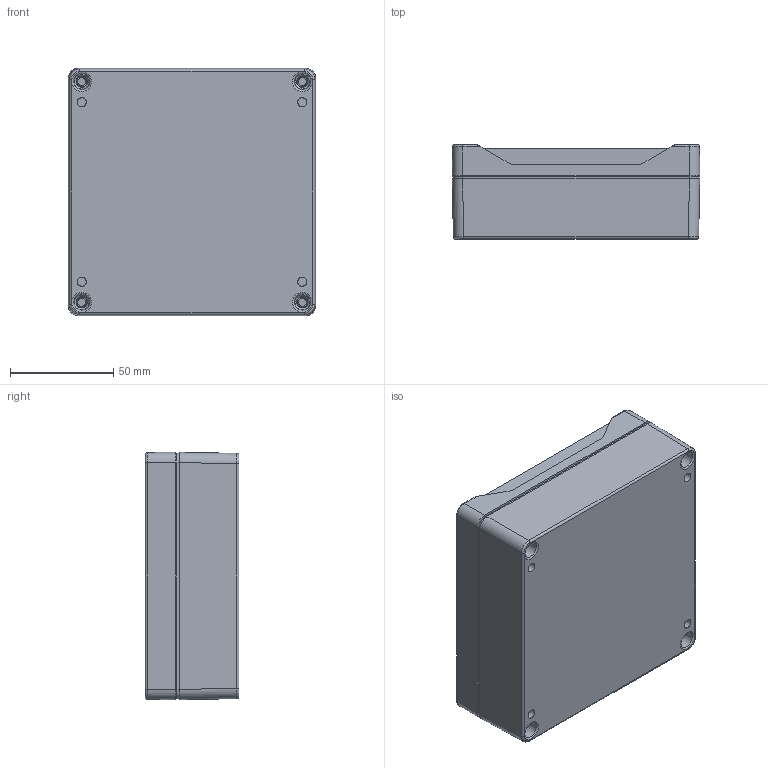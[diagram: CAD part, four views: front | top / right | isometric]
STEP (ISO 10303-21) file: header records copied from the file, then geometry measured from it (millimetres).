
FILE_DESCRIPTION(/* description */ (''),/* implementation_level */ '2;1');
FILE_NAME(/* name */ '1555NL.stp',/* time_stamp */ '2025-02-04T14:43:48-05:00',/* author */ ('mbeerman'),/* organization */ (''),/* preprocessor_version */ 'ST-DEVELOPER v20',/* originating_system */ 'Autodesk Inventor 2024',/* authorisation */ '');
FILE_SCHEMA (('AUTOMOTIVE_DESIGN { 1 0 10303 214 3 1 1 }'));
Products named in the file (7): 1554Q; 1554NL Box v1; lid N_P1; SC576 (screw M4-0.7X 20mm PN); 1554N-P GASKET; Insert; Insert_1
Assembly tree (15 placements, depth 2):
  1554Q
    1554NL Box v1
    lid N_P1
    SC576 (screw M4-0.7X 20mm PN)  x4
    1554N-P GASKET
    Insert_1  x4
    Insert  x4
Bounding box: 120 x 45.55 x 120 mm (x, y, z)
Volume: 162029.2 mm3; surface area: 117716.2 mm2
Topology: 15 solids, 15 shells, 1932 faces, 4971 edges, 3218 vertices
Faces by surface type: plane 707, bspline 571, cylinder 360, cone 214, torus 72, sphere 8
Full cylindrical faces by diameter (mm): 1.823 x1, 2 x4, 2.464 x4, 2.482 x1, 3 x10, 3.251 x4, 3.5 x8, 3.81 x12, 3.88 x4, 3.912 x4, 4.6 x4, 5.334 x4, 5.537 x8, 6 x4, 6.35 x8, 7 x4, 10 x1
Entity records: 53291 total; most frequent: CARTESIAN_POINT 21370, ORIENTED_EDGE 7012, DIRECTION 5771, EDGE_CURVE 3506, VERTEX_POINT 2249, AXIS2_PLACEMENT_3D 2032, LINE 1707, VECTOR 1707
